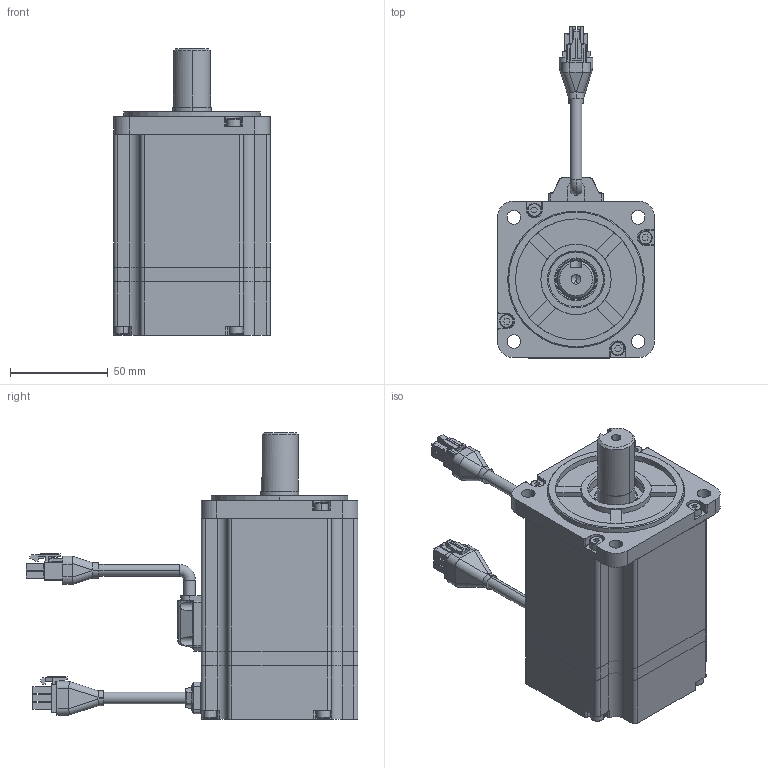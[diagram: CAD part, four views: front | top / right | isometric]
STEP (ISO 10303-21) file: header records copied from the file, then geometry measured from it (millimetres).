
FILE_DESCRIPTION (( 'STEP AP203' ), '1' );
FILE_NAME ('750W-002.STEP', '2019-08-11T08:57:14', ( '1' ), ( 'MideaGroup IT' ), 'SwSTEP 2.0', 'SolidWorks 2012', '' );
FILE_SCHEMA (( 'CONFIG_CONTROL_DESIGN' ));
Length unit declared in the file: millimetre
Products named in the file (20): 750W-002; 毀嚏盄揤裔郪璃; 毀嚏盄傷赽揤裔; 晤鎢ん盄傷赽; 晤鎢ん盄揤裔躇猾; 晤鎢ん盄揤裔; 雄薯盄揤裔郪璃; 雄薯盄傷赽裔; M2.5X5_GB_CROSS_SCREWS_TYPE3 M2.5X8-8-N; 雄薯盄; 雄薯盄傷赽; 雄薯盄躇猾菜; 雄薯盄揤裔; 萇儂粣-001; 6004_Rolling bearings 6004 GB 276-94; M4x20; 綴裔-001; ヶ傷裔-001; 綴傷裔-001; 儂褲-001
Assembly tree (33 placements, depth 3):
  750W-002
    儂褲-001
    綴傷裔-001
    ヶ傷裔-001
    綴裔-001
    M4x20  x8
    6004_Rolling bearings 6004 GB 276-94
    萇儂粣-001
    雄薯盄揤裔郪璃
      雄薯盄揤裔
      雄薯盄躇猾菜
      雄薯盄傷赽
      雄薯盄
      M2.5X5_GB_CROSS_SCREWS_TYPE3 M2.5X8-8-N  x4
      雄薯盄傷赽裔
    毀嚏盄揤裔郪璃
      晤鎢ん盄揤裔
      晤鎢ん盄揤裔躇猾
      晤鎢ん盄傷赽
      M2.5X5_GB_CROSS_SCREWS_TYPE3 M2.5X8-8-N  x4
      毀嚏盄傷赽揤裔
Bounding box: 80.2 x 170 x 147 mm (x, y, z)
Volume: 293067.8 mm3; surface area: 143287 mm2
Topology: 33 solids, 59 shells, 1553 faces, 4408 edges, 2934 vertices
Faces by surface type: plane 728, cylinder 587, cone 97, torus 79, sphere 48, bspline 14
Entity records: 46916 total; most frequent: CARTESIAN_POINT 11397, DIRECTION 6921, ORIENTED_EDGE 6803, EDGE_CURVE 3582, AXIS2_PLACEMENT_3D 2495, VERTEX_POINT 2394, VECTOR 1931, LINE 1931
